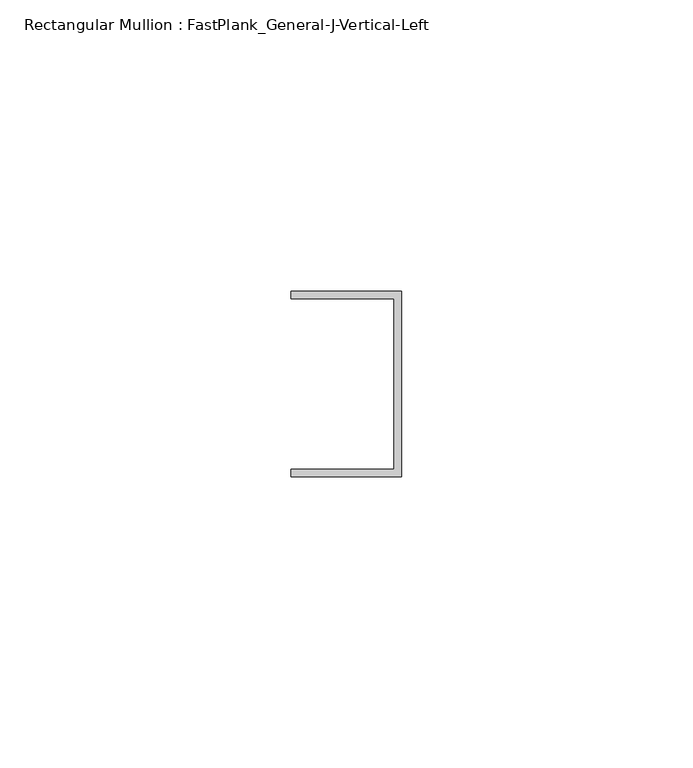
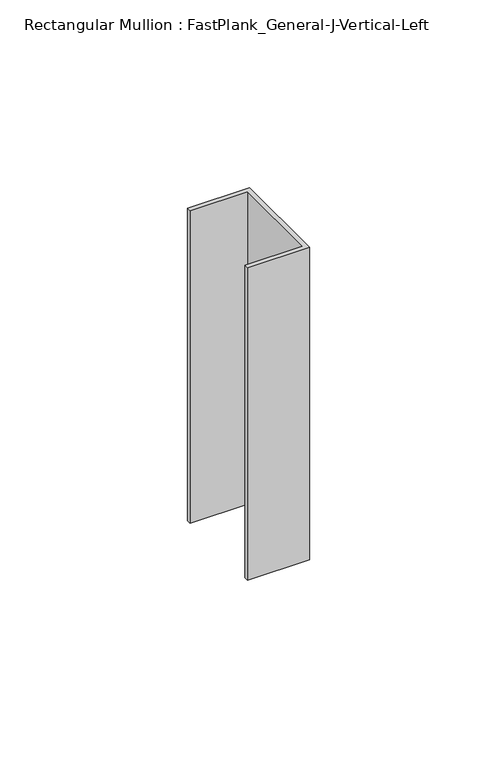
"""IFC4 building model written with IfcOpenShell, lengths in millimetres: member geometry, Rectangular Mullion : FastPlank_General-J-Vertical-Left."""

from ifc_helpers import new_model, si_unit, frame, origin, place, context, project, spatial, polyline, outline, extrude, source, transform, mapped, element, save


def rectangular_mullion_fastplank_general_j_vertical_left_750d52f3(model_context):
    return source(origin(), model_context, "Body", "SweptSolid", [
        extrude(outline(polyline([(0.0, 10.2620691), (0.0, -21.6412691), (-19.05, -21.6412691), (-19.05, -20.3412717), (-1.3000189, -20.3412717), (-1.3000189, 8.9620717), (-19.05, 8.9620717), (-19.05, 10.2620691), (0.0, 10.2620691)])), frame((0.0, 0.0, -101.6), z_axis=(0.0, 0.0, 1.0), x_axis=(1.0, 0.0, 0.0)), (0.0, 0.0, 1.0), 101.6),
    ])


if __name__ == "__main__":
    model = new_model("IFC4")
    model_context = context("Model", 3, world=origin())
    ifc_project = project(units=[si_unit("LENGTHUNIT", "METRE", prefix="MILLI")], contexts=[model_context])
    site = spatial("IfcSite", under=ifc_project)
    building = spatial("IfcBuilding", under=site)
    placement = place(None, origin())
    rectangular_mullion_fastplank_general_j_vertical_left_shape = rectangular_mullion_fastplank_general_j_vertical_left_750d52f3(model_context)
    element("IfcMember", 1, ObjectType="Rectangular Mullion : FastPlank_General-J-Vertical-Left", at=placement, inside=building, context=model_context, shape_type="MappedRepresentation", body=[
        mapped(rectangular_mullion_fastplank_general_j_vertical_left_shape, transform((0.0, 0.0, 0.0), x_axis=(1.0, 0.0, 0.0), y_axis=(0.0, 1.0, 0.0), z_axis=(0.0, 0.0, 1.0))),
    ])
    save(model, "model.ifc")
